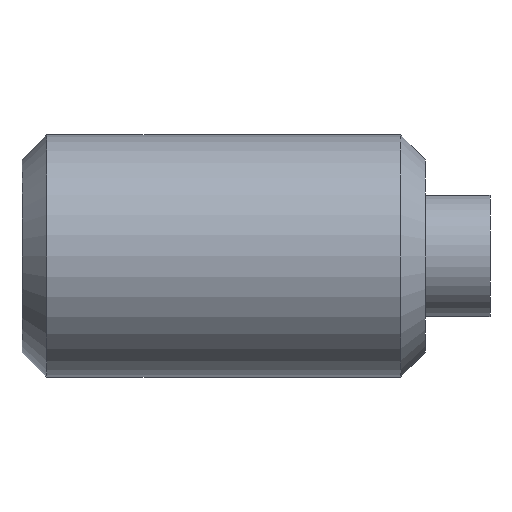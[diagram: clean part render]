
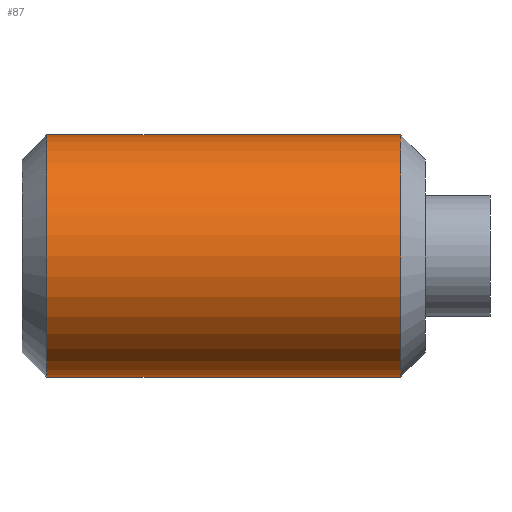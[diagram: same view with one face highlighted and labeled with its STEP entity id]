
A CAD part, left-side view. The second image highlights one B-rep face of the part: STEP entity #87.
In plain terms, the highlighted cylindrical face has radius 1.5 mm (diameter 3 mm), a full revolution.
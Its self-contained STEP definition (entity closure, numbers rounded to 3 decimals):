
#87 = ADVANCED_FACE( '', ( #118, #119 ), #120, .T. );
#118 = FACE_OUTER_BOUND( '', #152, .T. );
#119 = FACE_OUTER_BOUND( '', #153, .T. );
#120 = CYLINDRICAL_SURFACE( '', #154, 1.5 );
#152 = EDGE_LOOP( '', ( #238 ) );
#153 = EDGE_LOOP( '', ( #239 ) );
#154 = AXIS2_PLACEMENT_3D( '', #240, #241, #242 );
#238 = ORIENTED_EDGE( '', *, *, #270, .F. );
#239 = ORIENTED_EDGE( '', *, *, #271, .T. );
#240 = CARTESIAN_POINT( '', ( 0., 0., 0. ) );
#241 = DIRECTION( '', ( 0., 1., 0. ) );
#242 = DIRECTION( '', ( 0., 0., -1. ) );
#270 = EDGE_CURVE( '', #310, #310, #311, .T. );
#271 = EDGE_CURVE( '', #312, #312, #313, .T. );
#310 = VERTEX_POINT( '', #370 );
#311 = CIRCLE( '', #371, 1.5 );
#312 = VERTEX_POINT( '', #372 );
#313 = CIRCLE( '', #373, 1.5 );
#370 = CARTESIAN_POINT( '', ( 0., 1.107, -1.5 ) );
#371 = AXIS2_PLACEMENT_3D( '', #404, #405, #406 );
#372 = CARTESIAN_POINT( '', ( 0., 5.494, -1.5 ) );
#373 = AXIS2_PLACEMENT_3D( '', #407, #408, #409 );
#404 = CARTESIAN_POINT( '', ( 0., 1.107, 0. ) );
#405 = DIRECTION( '', ( 0., -1., 0. ) );
#406 = DIRECTION( '', ( 0., 0., -1. ) );
#407 = CARTESIAN_POINT( '', ( 0., 5.494, 0. ) );
#408 = DIRECTION( '', ( 0., -1., 0. ) );
#409 = DIRECTION( '', ( 0., 0., -1. ) );
